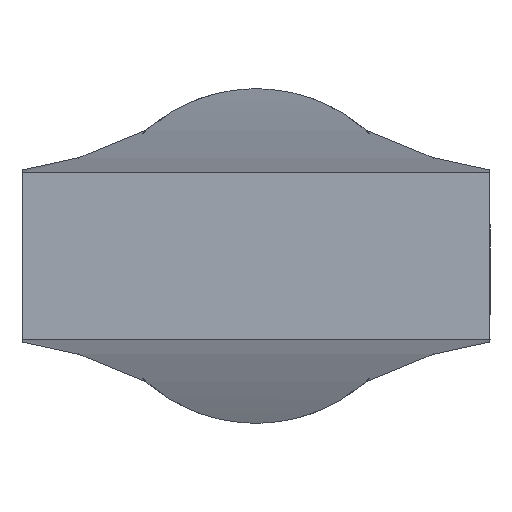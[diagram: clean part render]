
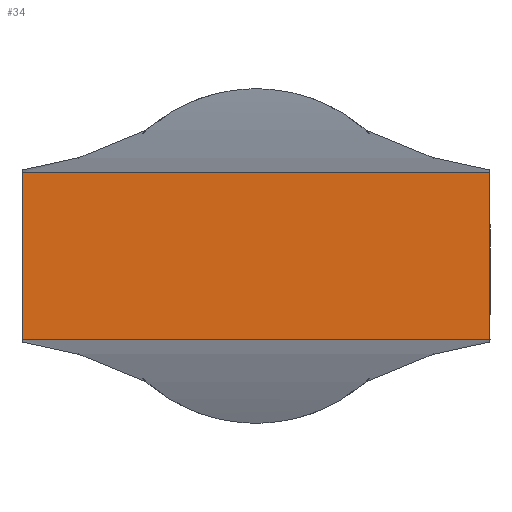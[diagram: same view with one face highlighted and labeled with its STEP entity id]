
A CAD part, left-side view. The second image highlights one B-rep face of the part: STEP entity #34.
In plain terms, the highlighted planar face has unit normal (-1, 0, 0).
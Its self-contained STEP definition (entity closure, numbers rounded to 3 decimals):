
#1 = DIRECTION ( 'NONE',  ( 0., -1., 0. ) ) ;
#34 = ADVANCED_FACE ( 'NONE', ( #643 ), #436, .T. ) ;
#42 = LINE ( 'NONE', #173, #55 ) ;
#55 = VECTOR ( 'NONE', #549, 1000. ) ;
#136 = EDGE_LOOP ( 'NONE', ( #206, #591, #467, #457 ) ) ;
#138 = EDGE_CURVE ( 'NONE', #464, #380, #42, .T. ) ;
#152 = CARTESIAN_POINT ( 'NONE',  ( 0., -3.5, -1.25 ) ) ;
#167 = VECTOR ( 'NONE', #493, 1000. ) ;
#173 = CARTESIAN_POINT ( 'NONE',  ( 0., -3.5, 0. ) ) ;
#195 = VERTEX_POINT ( 'NONE', #673 ) ;
#206 = ORIENTED_EDGE ( 'NONE', *, *, #477, .T. ) ;
#214 = DIRECTION ( 'NONE',  ( -1., 0., 0. ) ) ;
#216 = EDGE_CURVE ( 'NONE', #195, #229, #374, .T. ) ;
#229 = VERTEX_POINT ( 'NONE', #298 ) ;
#277 = CARTESIAN_POINT ( 'NONE',  ( 0., 0., -1.25 ) ) ;
#298 = CARTESIAN_POINT ( 'NONE',  ( 0., 3.5, -1.25 ) ) ;
#305 = VECTOR ( 'NONE', #616, 1000. ) ;
#337 = DIRECTION ( 'NONE',  ( 0., 0., 1. ) ) ;
#374 = LINE ( 'NONE', #401, #305 ) ;
#380 = VERTEX_POINT ( 'NONE', #152 ) ;
#391 = CARTESIAN_POINT ( 'NONE',  ( 0., -3.5, 1.25 ) ) ;
#401 = CARTESIAN_POINT ( 'NONE',  ( 0., 3.5, 0. ) ) ;
#436 = PLANE ( 'NONE',  #453 ) ;
#437 = CARTESIAN_POINT ( 'NONE',  ( 0., 0., 1.25 ) ) ;
#453 = AXIS2_PLACEMENT_3D ( 'NONE', #481, #214, #337 ) ;
#457 = ORIENTED_EDGE ( 'NONE', *, *, #138, .F. ) ;
#458 = LINE ( 'NONE', #437, #167 ) ;
#464 = VERTEX_POINT ( 'NONE', #391 ) ;
#467 = ORIENTED_EDGE ( 'NONE', *, *, #519, .T. ) ;
#477 = EDGE_CURVE ( 'NONE', #464, #195, #458, .T. ) ;
#481 = CARTESIAN_POINT ( 'NONE',  ( 0., 0., 0. ) ) ;
#493 = DIRECTION ( 'NONE',  ( 0., 1., 0. ) ) ;
#519 = EDGE_CURVE ( 'NONE', #229, #380, #628, .T. ) ;
#549 = DIRECTION ( 'NONE',  ( 0., 0., -1. ) ) ;
#564 = VECTOR ( 'NONE', #1, 1000. ) ;
#591 = ORIENTED_EDGE ( 'NONE', *, *, #216, .T. ) ;
#616 = DIRECTION ( 'NONE',  ( 0., 0., -1. ) ) ;
#628 = LINE ( 'NONE', #277, #564 ) ;
#643 = FACE_OUTER_BOUND ( 'NONE', #136, .T. ) ;
#673 = CARTESIAN_POINT ( 'NONE',  ( 0., 3.5, 1.25 ) ) ;
